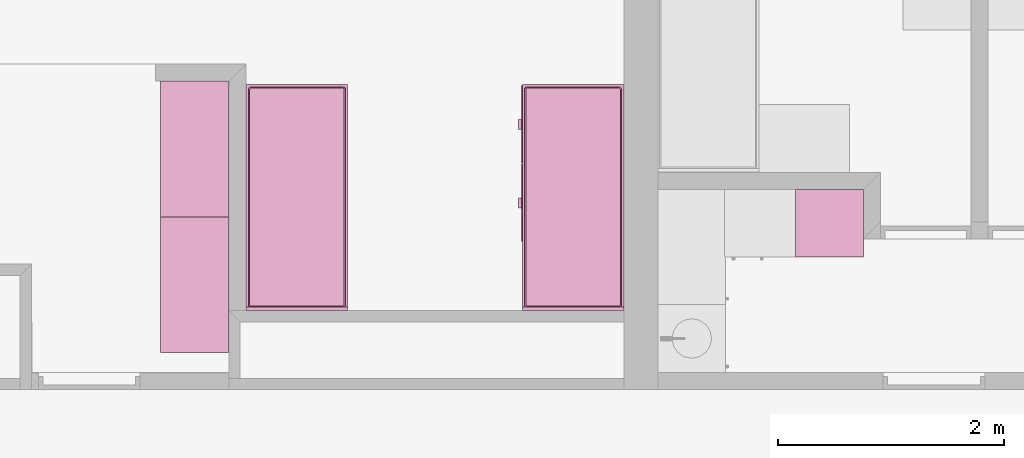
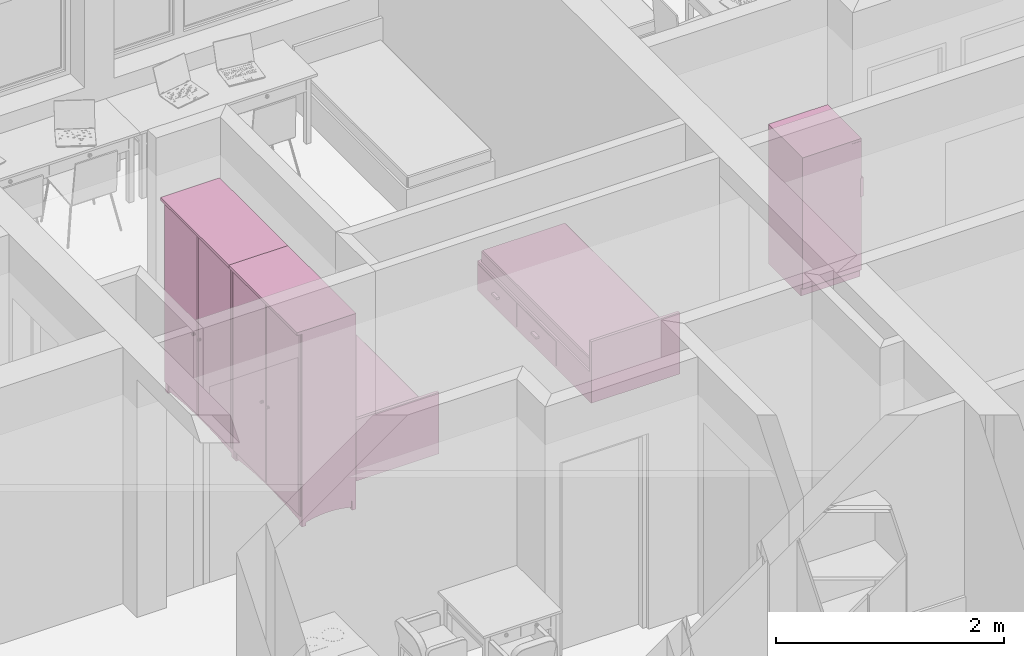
# One storey, part 89 of 172: 5 furnishings.
"""IFC2X3 building model written with IfcOpenShell, lengths in millimetres."""

from ifc_helpers import new_model, entity, si_unit, converted_unit, money_unit, direction, frame, origin_with_axes, place, context, subcontext, project, spatial, open_shell, faceted_brep, surface_model, source, transform, mapped, material, material_list, type_object, element, save


model = new_model("IFC2X3")

# Units and contexts
model_context = context("Model", 3, precision=1e-05, world=origin_with_axes(), true_north=direction((0.0, 1.0)))
body_context = subcontext(model_context, "Body", "Model", "MODEL_VIEW")
ifc_project = project(units=[si_unit("LENGTHUNIT", "METRE", prefix="MILLI"), si_unit("AREAUNIT", "SQUARE_METRE"), si_unit("VOLUMEUNIT", "CUBIC_METRE"), converted_unit("PLANEANGLEUNIT", "DEGREE", entity("IfcPlaneAngleMeasure", 0.0174532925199), si_unit("PLANEANGLEUNIT", "RADIAN"), dimensions=[0, 0, 0, 0, 0, 0, 0]), si_unit("SOLIDANGLEUNIT", "STERADIAN"), money_unit("USD"), converted_unit("TIMEUNIT", "Year", entity("IfcTimeMeasure", 31556926.0), si_unit("TIMEUNIT", "SECOND"), dimensions=[0, 0, 0, 0, 0, 0, 0]), si_unit("MASSUNIT", "GRAM"), si_unit("THERMODYNAMICTEMPERATUREUNIT", "DEGREE_CELSIUS"), si_unit("LUMINOUSINTENSITYUNIT", "LUMEN")], contexts=[model_context])

# Site, building, storey
site_placement = place(None, origin_with_axes())
site = spatial("IfcSite", under=ifc_project, at=site_placement, Name="Site", CompositionType="ELEMENT")
building_placement = place(site_placement, origin_with_axes())
building = spatial("IfcBuilding", under=site, at=building_placement, Name="Building", CompositionType="ELEMENT")
storey_placement = place(building_placement, frame((0.0, 0.0, 3200.0), z_axis=(0.0, 0.0, 1.0), x_axis=(1.0, 0.0, 0.0)))
storey = spatial("IfcBuildingStorey", under=building, at=storey_placement, Name="3KORRUS", CompositionType="ELEMENT", Elevation=3200.0)

# Furnishings
ifc_material = material(Name="Background")
ifc_material_list = material_list([ifc_material])
furnishing_element_type_1 = type_object("IfcFurnishingElementType", Name="Bed 19")
shared_shape_1 = source(origin_with_axes(), body_context, "Body", "Brep", [
    faceted_brep([(900.0, 1970.0, 0.0), (0.0, 1970.0, 0.0), (0.0, 2000.0, 0.0), (900.0, 2000.0, 0.0), (900.0, 1970.0, 660.0), (0.0, 1970.0, 660.0), (0.0, 2000.0, 660.0), (900.0, 2000.0, 660.0)], [[[0, 1, 2, 3]], [[1, 0, 4, 5]], [[2, 1, 5, 6]], [[3, 2, 6, 7]], [[0, 3, 7, 4]], [[5, 4, 7, 6]]]),
    faceted_brep([(900.0, 0.0, 0.0), (0.0, 0.0, 0.0), (0.0, 1970.0, 0.0), (900.0, 1970.0, 0.0), (900.0, 0.0, 320.0), (0.0, 0.0, 320.0), (0.0, 1970.0, 320.0), (900.0, 1970.0, 320.0)], [[[0, 1, 2, 3]], [[1, 0, 4, 5]], [[2, 1, 5, 6]], [[3, 2, 6, 7]], [[0, 3, 7, 4]], [[5, 4, 7, 6]]]),
    faceted_brep([(905.0, 10.0, 30.0), (900.0, 10.0, 30.0), (900.0, 695.0, 30.0), (905.0, 695.0, 30.0), (905.0, 10.0, 290.0), (900.0, 10.0, 290.0), (900.0, 695.0, 290.0), (905.0, 695.0, 290.0)], [[[0, 1, 2, 3]], [[1, 0, 4, 5]], [[2, 1, 5, 6]], [[3, 2, 6, 7]], [[0, 3, 7, 4]], [[5, 4, 7, 6]]]),
    faceted_brep([(935.0, 307.5, 150.0), (905.0, 307.5, 150.0), (905.0, 397.5, 150.0), (935.0, 397.5, 150.0), (935.0, 307.5, 170.0), (905.0, 307.5, 170.0), (905.0, 397.5, 170.0), (935.0, 397.5, 170.0)], [[[0, 1, 2, 3]], [[1, 0, 4, 5]], [[2, 1, 5, 6]], [[3, 2, 6, 7]], [[0, 3, 7, 4]], [[5, 4, 7, 6]]]),
    faceted_brep([(905.0, 705.0, 30.0), (900.0, 705.0, 30.0), (900.0, 1390.0, 30.0), (905.0, 1390.0, 30.0), (905.0, 705.0, 290.0), (900.0, 705.0, 290.0), (900.0, 1390.0, 290.0), (905.0, 1390.0, 290.0)], [[[0, 1, 2, 3]], [[1, 0, 4, 5]], [[2, 1, 5, 6]], [[3, 2, 6, 7]], [[0, 3, 7, 4]], [[5, 4, 7, 6]]]),
    faceted_brep([(935.0, 1002.5, 150.0), (905.0, 1002.5, 150.0), (905.0, 1092.5, 150.0), (935.0, 1092.5, 150.0), (935.0, 1002.5, 170.0), (905.0, 1002.5, 170.0), (905.0, 1092.5, 170.0), (935.0, 1092.5, 170.0)], [[[0, 1, 2, 3]], [[1, 0, 4, 5]], [[2, 1, 5, 6]], [[3, 2, 6, 7]], [[0, 3, 7, 4]], [[5, 4, 7, 6]]]),
    faceted_brep([(20.0, 40.0, 350.0), (20.0, 1950.0, 350.0), (21.522, 1957.654, 350.0), (25.858, 1964.142, 350.0), (32.346, 1968.478, 350.0), (40.0, 1970.0, 350.0), (860.0, 1970.0, 350.0), (867.654, 1968.478, 350.0), (874.142, 1964.142, 350.0), (878.478, 1957.654, 350.0), (880.0, 1950.0, 350.0), (880.0, 40.0, 350.0), (878.478, 32.346, 350.0), (874.142, 25.858, 350.0), (867.654, 21.522, 350.0), (860.0, 20.0, 350.0), (40.0, 20.0, 350.0), (32.346, 21.522, 350.0), (25.858, 25.858, 350.0), (21.522, 32.346, 350.0), (20.0, 40.0, 420.0), (20.0, 1950.0, 420.0), (21.522, 1957.654, 420.0), (25.858, 1964.142, 420.0), (32.346, 1968.478, 420.0), (40.0, 1970.0, 420.0), (860.0, 1970.0, 420.0), (867.654, 1968.478, 420.0), (874.142, 1964.142, 420.0), (878.478, 1957.654, 420.0), (880.0, 1950.0, 420.0), (880.0, 40.0, 420.0), (878.478, 32.346, 420.0), (874.142, 25.858, 420.0), (867.654, 21.522, 420.0), (860.0, 20.0, 420.0), (40.0, 20.0, 420.0), (32.346, 21.522, 420.0), (25.858, 25.858, 420.0), (21.522, 32.346, 420.0), (21.522, 40.15, 427.654), (21.522, 1949.85, 427.654), (22.956, 1957.06, 427.654), (26.955, 1963.045, 427.654), (32.94, 1967.044, 427.654), (40.15, 1968.478, 427.654), (859.85, 1968.478, 427.654), (867.06, 1967.044, 427.654), (873.045, 1963.045, 427.654), (877.044, 1957.06, 427.654), (878.478, 1949.85, 427.654), (878.478, 40.15, 427.654), (877.044, 32.94, 427.654), (873.045, 26.955, 427.654), (867.06, 22.956, 427.654), (859.85, 21.522, 427.654), (40.15, 21.522, 427.654), (32.94, 22.956, 427.654), (26.955, 26.955, 427.654), (22.956, 32.94, 427.654), (32.346, 41.216, 438.478), (32.346, 1948.784, 438.478), (33.152, 1952.836, 438.478), (34.759, 1955.241, 438.478), (37.164, 1956.848, 438.478), (41.216, 1957.654, 438.478), (858.784, 1957.654, 438.478), (862.836, 1956.848, 438.478), (865.241, 1955.241, 438.478), (866.848, 1952.836, 438.478), (867.654, 1948.784, 438.478), (867.654, 41.216, 438.478), (866.848, 37.164, 438.478), (865.241, 34.759, 438.478), (862.836, 33.152, 438.478), (858.784, 32.346, 438.478), (41.216, 32.346, 438.478), (37.164, 33.152, 438.478), (34.759, 34.759, 438.478), (33.152, 37.164, 438.478), (40.0, 41.97, 440.0), (40.0, 1948.03, 440.0), (40.327, 1949.673, 440.0), (40.0, 1950.0, 439.924), (41.97, 1950.0, 440.0), (858.03, 1950.0, 440.0), (859.673, 1949.673, 440.0), (860.0, 1950.0, 439.924), (860.0, 1948.03, 440.0), (860.0, 41.97, 440.0), (859.673, 40.327, 440.0), (860.0, 40.0, 439.924), (858.03, 40.0, 440.0), (41.97, 40.0, 440.0), (40.327, 40.327, 440.0), (40.0, 40.0, 439.924)], [[[0, 1, 2, 3, 4, 5, 6, 7, 8, 9, 10, 11, 12, 13, 14, 15, 16, 17, 18, 19]], [[1, 0, 20, 21]], [[2, 1, 21, 22]], [[3, 2, 22, 23]], [[4, 3, 23, 24]], [[5, 4, 24, 25]], [[6, 5, 25, 26]], [[7, 6, 26, 27]], [[8, 7, 27, 28]], [[9, 8, 28, 29]], [[10, 9, 29, 30]], [[11, 10, 30, 31]], [[12, 11, 31, 32]], [[13, 12, 32, 33]], [[14, 13, 33, 34]], [[15, 14, 34, 35]], [[16, 15, 35, 36]], [[17, 16, 36, 37]], [[18, 17, 37, 38]], [[19, 18, 38, 39]], [[0, 19, 39, 20]], [[21, 20, 40, 41]], [[22, 21, 41, 42]], [[23, 22, 42, 43]], [[24, 23, 43, 44]], [[25, 24, 44, 45]], [[26, 25, 45, 46]], [[27, 26, 46, 47]], [[28, 27, 47, 48]], [[29, 28, 48, 49]], [[30, 29, 49, 50]], [[31, 30, 50, 51]], [[32, 31, 51, 52]], [[33, 32, 52, 53]], [[34, 33, 53, 54]], [[35, 34, 54, 55]], [[36, 35, 55, 56]], [[37, 36, 56, 57]], [[38, 37, 57, 58]], [[39, 38, 58, 59]], [[20, 39, 59, 40]], [[41, 40, 60, 61]], [[42, 41, 61, 62]], [[43, 42, 62, 63]], [[44, 43, 63, 64]], [[45, 44, 64, 65]], [[46, 45, 65, 66]], [[47, 46, 66, 67]], [[48, 47, 67, 68]], [[49, 48, 68, 69]], [[50, 49, 69, 70]], [[51, 50, 70, 71]], [[52, 51, 71, 72]], [[53, 52, 72, 73]], [[54, 53, 73, 74]], [[55, 54, 74, 75]], [[56, 55, 75, 76]], [[57, 56, 76, 77]], [[58, 57, 77, 78]], [[59, 58, 78, 79]], [[40, 59, 79, 60]], [[61, 60, 80, 81]], [[62, 61, 81, 82, 83]], [[63, 62, 83]], [[64, 63, 83]], [[65, 64, 83, 82, 84]], [[66, 65, 84, 85]], [[67, 66, 85, 86, 87]], [[68, 67, 87]], [[69, 68, 87]], [[70, 69, 87, 86, 88]], [[71, 70, 88, 89]], [[72, 71, 89, 90, 91]], [[73, 72, 91]], [[74, 73, 91]], [[75, 74, 91, 90, 92]], [[76, 75, 92, 93]], [[77, 76, 93, 94, 95]], [[78, 77, 95]], [[79, 78, 95]], [[60, 79, 95, 94, 80]], [[81, 80, 94, 93, 92, 90, 89, 88, 86, 85, 84, 82]]]),
    faceted_brep([(20.0, 40.0, 350.0), (21.522, 32.346, 350.0), (25.858, 25.858, 350.0), (32.346, 21.522, 350.0), (40.0, 20.0, 350.0), (860.0, 20.0, 350.0), (867.654, 21.522, 350.0), (874.142, 25.858, 350.0), (878.478, 32.346, 350.0), (880.0, 40.0, 350.0), (880.0, 1950.0, 350.0), (878.478, 1957.654, 350.0), (874.142, 1964.142, 350.0), (867.654, 1968.478, 350.0), (860.0, 1970.0, 350.0), (40.0, 1970.0, 350.0), (32.346, 1968.478, 350.0), (25.858, 1964.142, 350.0), (21.522, 1957.654, 350.0), (20.0, 1950.0, 350.0), (20.0, 40.0, 320.0), (21.522, 32.346, 320.0), (25.858, 25.858, 320.0), (32.346, 21.522, 320.0), (40.0, 20.0, 320.0), (860.0, 20.0, 320.0), (867.654, 21.522, 320.0), (874.142, 25.858, 320.0), (878.478, 32.346, 320.0), (880.0, 40.0, 320.0), (880.0, 1950.0, 320.0), (878.478, 1957.654, 320.0), (874.142, 1964.142, 320.0), (867.654, 1968.478, 320.0), (860.0, 1970.0, 320.0), (40.0, 1970.0, 320.0), (32.346, 1968.478, 320.0), (25.858, 1964.142, 320.0), (21.522, 1957.654, 320.0), (20.0, 1950.0, 320.0)], [[[0, 1, 2, 3, 4, 5, 6, 7, 8, 9, 10, 11, 12, 13, 14, 15, 16, 17, 18, 19]], [[0, 20, 21, 1]], [[1, 21, 22, 2]], [[2, 22, 23, 3]], [[3, 23, 24, 4]], [[4, 24, 25, 5]], [[5, 25, 26, 6]], [[6, 26, 27, 7]], [[7, 27, 28, 8]], [[8, 28, 29, 9]], [[9, 29, 30, 10]], [[10, 30, 31, 11]], [[11, 31, 32, 12]], [[12, 32, 33, 13]], [[13, 33, 34, 14]], [[14, 34, 35, 15]], [[15, 35, 36, 16]], [[16, 36, 37, 17]], [[17, 37, 38, 18]], [[18, 38, 39, 19]], [[19, 39, 20, 0]], [[20, 39, 38, 37, 36, 35, 34, 33, 32, 31, 30, 29, 28, 27, 26, 25, 24, 23, 22, 21]]]),
])
for number, where, z_axis, x_axis, name in (
    (1, (-42290.2967033, -8439.97068321, 0.0), (0.0, 0.0, 1.0), (-1.0, 0.0, 0.0), "FU - 013"),
    (2, (-44734.1327748, -8439.97068321, 0.0), (0.0, 0.0, 1.0), (-1.0, 0.0, 0.0), "FU - 013"),
):
    element("IfcFurnishingElement", number, at=place(storey_placement, frame(where, z_axis=z_axis, x_axis=x_axis)), inside=storey, type_object=furnishing_element_type_1, material=ifc_material_list, Name=name, context=body_context, shape_type="MappedRepresentation", body=[
        mapped(shared_shape_1, transform((0.0, 0.0, 0.0))),
    ])
furnishing_element_type_2 = type_object("IfcFurnishingElementType", Name="Cupboard 19")
shared_shape_2 = source(origin_with_axes(), body_context, "Body", "Brep", [
    faceted_brep([(1180.0, 600.0, 120.0), (1180.0, 600.0, 2050.0), (1180.0, 580.0, 2050.0), (1180.0, 580.0, 120.0), (20.0, 600.0, 120.0), (20.0, 600.0, 2050.0), (20.0, 580.0, 2050.0), (20.0, 580.0, 120.0)], [[[0, 1, 2, 3]], [[4, 5, 1, 0]], [[1, 5, 6, 2]], [[3, 2, 6, 7]], [[0, 3, 7, 4]], [[7, 6, 5, 4]]]),
    faceted_brep([(0.0, 50.0, 100.0), (0.0, 600.0, 100.0), (20.0, 600.0, 100.0), (20.0, 50.0, 100.0), (0.0, 50.0, 2070.0), (0.0, 600.0, 2070.0), (20.0, 600.0, 2070.0), (20.0, 50.0, 2070.0)], [[[0, 1, 2, 3]], [[0, 4, 5, 1]], [[1, 5, 6, 2]], [[2, 6, 7, 3]], [[3, 7, 4, 0]], [[7, 6, 5, 4]]]),
    faceted_brep([(1180.0, 50.0, 100.0), (1180.0, 600.0, 100.0), (1200.0, 600.0, 100.0), (1200.0, 50.0, 100.0), (1180.0, 50.0, 2070.0), (1180.0, 600.0, 2070.0), (1200.0, 600.0, 2070.0), (1200.0, 50.0, 2070.0)], [[[0, 1, 2, 3]], [[0, 4, 5, 1]], [[1, 5, 6, 2]], [[2, 6, 7, 3]], [[3, 7, 4, 0]], [[7, 6, 5, 4]]]),
    faceted_brep([(20.0, 50.0, 100.0), (20.0, 600.0, 100.0), (1180.0, 600.0, 100.0), (1180.0, 50.0, 100.0), (20.0, 50.0, 120.0), (20.0, 600.0, 120.0), (1180.0, 600.0, 120.0), (1180.0, 50.0, 120.0)], [[[0, 1, 2, 3]], [[0, 4, 5, 1]], [[1, 5, 6, 2]], [[2, 6, 7, 3]], [[3, 7, 4, 0]], [[7, 6, 5, 4]]]),
    faceted_brep([(20.0, 50.0, 2050.0), (20.0, 600.0, 2050.0), (1180.0, 600.0, 2050.0), (1180.0, 50.0, 2050.0), (20.0, 50.0, 2070.0), (20.0, 600.0, 2070.0), (1180.0, 600.0, 2070.0), (1180.0, 50.0, 2070.0)], [[[0, 1, 2, 3]], [[0, 4, 5, 1]], [[1, 5, 6, 2]], [[2, 6, 7, 3]], [[3, 7, 4, 0]], [[7, 6, 5, 4]]]),
    faceted_brep([(0.0, 600.0, 2070.0), (0.0, 0.0, 2070.0), (0.0, 0.0, 2100.0), (0.0, 600.0, 2100.0), (1200.0, 600.0, 2070.0), (1200.0, 0.0, 2070.0), (1200.0, 0.0, 2100.0), (1200.0, 600.0, 2100.0)], [[[0, 1, 2, 3]], [[0, 4, 5, 1]], [[1, 5, 6, 2]], [[3, 2, 6, 7]], [[4, 0, 3, 7]], [[5, 4, 7, 6]]]),
    faceted_brep([(1160.0, 590.0, 25.0), (1160.0, 570.0, 25.0), (880.627, 570.0, 53.115), (880.627, 590.0, 53.115), (1160.0, 590.0, 100.0), (1160.0, 570.0, 100.0), (40.0, 570.0, 100.0), (40.0, 570.0, 25.0), (319.373, 570.0, 53.115), (600.0, 570.0, 62.5), (600.0, 590.0, 62.5), (319.373, 590.0, 53.115), (40.0, 590.0, 25.0), (40.0, 590.0, 100.0)], [[[0, 1, 2, 3]], [[4, 5, 1, 0]], [[1, 5, 6, 7, 8, 9, 2]], [[3, 2, 9, 10]], [[0, 3, 10, 11, 12, 13, 4]], [[13, 6, 5, 4]], [[12, 7, 6, 13]], [[11, 8, 7, 12]], [[10, 9, 8, 11]]]),
    faceted_brep([(1160.0, 80.0, 25.0), (1160.0, 60.0, 25.0), (880.627, 60.0, 53.115), (880.627, 80.0, 53.115), (1160.0, 80.0, 100.0), (1160.0, 60.0, 100.0), (40.0, 60.0, 100.0), (40.0, 60.0, 25.0), (319.373, 60.0, 53.115), (600.0, 60.0, 62.5), (600.0, 80.0, 62.5), (319.373, 80.0, 53.115), (40.0, 80.0, 25.0), (40.0, 80.0, 100.0)], [[[0, 1, 2, 3]], [[4, 5, 1, 0]], [[1, 5, 6, 7, 8, 9, 2]], [[3, 2, 9, 10]], [[0, 3, 10, 11, 12, 13, 4]], [[13, 6, 5, 4]], [[12, 7, 6, 13]], [[11, 8, 7, 12]], [[10, 9, 8, 11]]]),
    faceted_brep([(1190.0, 90.0, 25.0), (1170.0, 90.0, 25.0), (1170.0, 141.266, 38.072), (1190.0, 141.266, 38.072), (1190.0, 90.0, 100.0), (1170.0, 90.0, 100.0), (1170.0, 560.0, 100.0), (1170.0, 560.0, 25.0), (1170.0, 508.734, 38.072), (1170.0, 456.752, 47.92), (1170.0, 404.257, 54.508), (1170.0, 351.453, 57.808), (1170.0, 298.547, 57.808), (1170.0, 245.743, 54.508), (1170.0, 193.248, 47.92), (1190.0, 193.248, 47.92), (1190.0, 245.743, 54.508), (1190.0, 298.547, 57.808), (1190.0, 351.453, 57.808), (1190.0, 404.257, 54.508), (1190.0, 456.752, 47.92), (1190.0, 508.734, 38.072), (1190.0, 560.0, 25.0), (1190.0, 560.0, 100.0)], [[[0, 1, 2, 3]], [[4, 5, 1, 0]], [[1, 5, 6, 7, 8, 9, 10, 11, 12, 13, 14, 2]], [[3, 2, 14, 15]], [[0, 3, 15, 16, 17, 18, 19, 20, 21, 22, 23, 4]], [[23, 6, 5, 4]], [[22, 7, 6, 23]], [[21, 8, 7, 22]], [[20, 9, 8, 21]], [[19, 10, 9, 20]], [[18, 11, 10, 19]], [[17, 12, 11, 18]], [[16, 13, 12, 17]], [[15, 14, 13, 16]]]),
    faceted_brep([(30.0, 90.0, 25.0), (10.0, 90.0, 25.0), (10.0, 141.266, 38.072), (30.0, 141.266, 38.072), (30.0, 90.0, 100.0), (10.0, 90.0, 100.0), (10.0, 560.0, 100.0), (10.0, 560.0, 25.0), (10.0, 508.734, 38.072), (10.0, 456.752, 47.92), (10.0, 404.257, 54.508), (10.0, 351.453, 57.808), (10.0, 298.547, 57.808), (10.0, 245.743, 54.508), (10.0, 193.248, 47.92), (30.0, 193.248, 47.92), (30.0, 245.743, 54.508), (30.0, 298.547, 57.808), (30.0, 351.453, 57.808), (30.0, 404.257, 54.508), (30.0, 456.752, 47.92), (30.0, 508.734, 38.072), (30.0, 560.0, 25.0), (30.0, 560.0, 100.0)], [[[0, 1, 2, 3]], [[4, 5, 1, 0]], [[1, 5, 6, 7, 8, 9, 10, 11, 12, 13, 14, 2]], [[3, 2, 14, 15]], [[0, 3, 15, 16, 17, 18, 19, 20, 21, 22, 23, 4]], [[23, 6, 5, 4]], [[22, 7, 6, 23]], [[21, 8, 7, 22]], [[20, 9, 8, 21]], [[19, 10, 9, 20]], [[18, 11, 10, 19]], [[17, 12, 11, 18]], [[16, 13, 12, 17]], [[15, 14, 13, 16]]]),
    faceted_brep([(1160.0, 560.0, 0.0), (1160.0, 560.0, 100.0), (1160.0, 600.0, 100.0), (1160.0, 600.0, 0.0), (1200.0, 560.0, 0.0), (1200.0, 560.0, 100.0), (1200.0, 600.0, 100.0), (1200.0, 600.0, 0.0)], [[[0, 1, 2, 3]], [[4, 5, 1, 0]], [[1, 5, 6, 2]], [[3, 2, 6, 7]], [[0, 3, 7, 4]], [[7, 6, 5, 4]]]),
    faceted_brep([(0.0, 560.0, 0.0), (0.0, 560.0, 100.0), (0.0, 600.0, 100.0), (0.0, 600.0, 0.0), (40.0, 560.0, 0.0), (40.0, 560.0, 100.0), (40.0, 600.0, 100.0), (40.0, 600.0, 0.0)], [[[0, 1, 2, 3]], [[4, 5, 1, 0]], [[1, 5, 6, 2]], [[3, 2, 6, 7]], [[0, 3, 7, 4]], [[7, 6, 5, 4]]]),
    faceted_brep([(1160.0, 50.0, 0.0), (1160.0, 50.0, 100.0), (1160.0, 90.0, 100.0), (1160.0, 90.0, 0.0), (1200.0, 50.0, 0.0), (1200.0, 50.0, 100.0), (1200.0, 90.0, 100.0), (1200.0, 90.0, 0.0)], [[[0, 1, 2, 3]], [[4, 5, 1, 0]], [[1, 5, 6, 2]], [[3, 2, 6, 7]], [[0, 3, 7, 4]], [[7, 6, 5, 4]]]),
    faceted_brep([(0.0, 50.0, 0.0), (0.0, 50.0, 100.0), (0.0, 90.0, 100.0), (0.0, 90.0, 0.0), (40.0, 50.0, 0.0), (40.0, 50.0, 100.0), (40.0, 90.0, 100.0), (40.0, 90.0, 0.0)], [[[0, 1, 2, 3]], [[4, 5, 1, 0]], [[1, 5, 6, 2]], [[3, 2, 6, 7]], [[0, 3, 7, 4]], [[7, 6, 5, 4]]]),
    faceted_brep([(1180.0, 580.0, 587.5), (1180.0, 580.0, 607.5), (1180.0, 50.0, 607.5), (1180.0, 50.0, 587.5), (20.0, 580.0, 587.5), (20.0, 580.0, 607.5), (20.0, 50.0, 607.5), (20.0, 50.0, 587.5)], [[[0, 1, 2, 3]], [[4, 5, 1, 0]], [[1, 5, 6, 2]], [[3, 2, 6, 7]], [[0, 3, 7, 4]], [[7, 6, 5, 4]]]),
    faceted_brep([(1180.0, 580.0, 1075.0), (1180.0, 580.0, 1095.0), (1180.0, 50.0, 1095.0), (1180.0, 50.0, 1075.0), (20.0, 580.0, 1075.0), (20.0, 580.0, 1095.0), (20.0, 50.0, 1095.0), (20.0, 50.0, 1075.0)], [[[0, 1, 2, 3]], [[4, 5, 1, 0]], [[1, 5, 6, 2]], [[3, 2, 6, 7]], [[0, 3, 7, 4]], [[7, 6, 5, 4]]]),
    faceted_brep([(1180.0, 580.0, 1562.5), (1180.0, 580.0, 1582.5), (1180.0, 50.0, 1582.5), (1180.0, 50.0, 1562.5), (20.0, 580.0, 1562.5), (20.0, 580.0, 1582.5), (20.0, 50.0, 1582.5), (20.0, 50.0, 1562.5)], [[[0, 1, 2, 3]], [[4, 5, 1, 0]], [[1, 5, 6, 2]], [[3, 2, 6, 7]], [[0, 3, 7, 4]], [[7, 6, 5, 4]]]),
    faceted_brep([(1189.5, 50.0, 110.5), (600.5, 50.0, 110.5), (600.5, 50.0, 2059.5), (1189.5, 50.0, 2059.5), (1189.5, 40.0, 110.5), (600.5, 40.0, 110.5), (600.5, 40.0, 2059.5), (1189.5, 40.0, 2059.5), (1179.5, 30.0, 120.5), (610.5, 30.0, 120.5), (610.5, 30.0, 2049.5), (1179.5, 30.0, 2049.5)], [[[0, 1, 2, 3]], [[0, 4, 5, 1]], [[1, 5, 6, 2]], [[2, 6, 7, 3]], [[3, 7, 4, 0]], [[4, 8, 9, 5]], [[5, 9, 10, 6]], [[6, 10, 11, 7]], [[7, 11, 8, 4]], [[10, 9, 8, 11]]]),
    faceted_brep([(599.5, 50.0, 110.5), (10.5, 50.0, 110.5), (10.5, 50.0, 2059.5), (599.5, 50.0, 2059.5), (599.5, 40.0, 110.5), (10.5, 40.0, 110.5), (10.5, 40.0, 2059.5), (599.5, 40.0, 2059.5), (589.5, 30.0, 120.5), (20.5, 30.0, 120.5), (20.5, 30.0, 2049.5), (589.5, 30.0, 2049.5)], [[[0, 1, 2, 3]], [[0, 4, 5, 1]], [[1, 5, 6, 2]], [[2, 6, 7, 3]], [[3, 7, 4, 0]], [[4, 8, 9, 5]], [[5, 9, 10, 6]], [[6, 10, 11, 7]], [[7, 11, 8, 4]], [[10, 9, 8, 11]]]),
    faceted_brep([(539.608, 30.0, 954.0), (538.0, 30.0, 960.0), (539.608, 30.0, 966.0), (544.0, 30.0, 970.392), (550.0, 30.0, 972.0), (556.0, 30.0, 970.392), (560.392, 30.0, 966.0), (562.0, 30.0, 960.0), (560.392, 30.0, 954.0), (556.0, 30.0, 949.608), (550.0, 30.0, 948.0), (544.0, 30.0, 949.608), (539.608, 5.0, 954.0), (538.0, 5.0, 960.0), (539.608, 5.0, 966.0), (544.0, 5.0, 970.392), (550.0, 5.0, 972.0), (556.0, 5.0, 970.392), (560.392, 5.0, 966.0), (562.0, 5.0, 960.0), (560.392, 5.0, 954.0), (556.0, 5.0, 949.608), (550.0, 5.0, 948.0), (544.0, 5.0, 949.608)], [[[0, 1, 2, 3, 4, 5, 6, 7, 8, 9, 10, 11]], [[0, 12, 13, 1]], [[1, 13, 14, 2]], [[2, 14, 15, 3]], [[3, 15, 16, 4]], [[4, 16, 17, 5]], [[5, 17, 18, 6]], [[6, 18, 19, 7]], [[7, 19, 20, 8]], [[8, 20, 21, 9]], [[9, 21, 22, 10]], [[10, 22, 23, 11]], [[11, 23, 12, 0]], [[12, 23, 22, 21, 20, 19, 18, 17, 16, 15, 14, 13]]]),
    faceted_brep([(660.392, 30.0, 954.0), (656.0, 30.0, 949.608), (650.0, 30.0, 948.0), (644.0, 30.0, 949.608), (639.608, 30.0, 954.0), (638.0, 30.0, 960.0), (639.608, 30.0, 966.0), (644.0, 30.0, 970.392), (650.0, 30.0, 972.0), (656.0, 30.0, 970.392), (660.392, 30.0, 966.0), (662.0, 30.0, 960.0), (660.392, 5.0, 954.0), (656.0, 5.0, 949.608), (650.0, 5.0, 948.0), (644.0, 5.0, 949.608), (639.608, 5.0, 954.0), (638.0, 5.0, 960.0), (639.608, 5.0, 966.0), (644.0, 5.0, 970.392), (650.0, 5.0, 972.0), (656.0, 5.0, 970.392), (660.392, 5.0, 966.0), (662.0, 5.0, 960.0)], [[[0, 1, 2, 3, 4, 5, 6, 7, 8, 9, 10, 11]], [[1, 0, 12, 13]], [[2, 1, 13, 14]], [[3, 2, 14, 15]], [[4, 3, 15, 16]], [[5, 4, 16, 17]], [[6, 5, 17, 18]], [[7, 6, 18, 19]], [[8, 7, 19, 20]], [[9, 8, 20, 21]], [[10, 9, 21, 22]], [[11, 10, 22, 23]], [[0, 11, 23, 12]], [[12, 23, 22, 21, 20, 19, 18, 17, 16, 15, 14, 13]]]),
])
for number, where, z_axis, x_axis, name in (
    (3, (-46389.9526939, -8409.87086674, 0.0), (0.0, 0.0, 1.0), (0.0, -1.0, 0.0), "FU - 014"),
    (4, (-46389.9526939, -9609.87086674, 0.0), (0.0, 0.0, 1.0), (0.0, -1.0, 0.0), "FU - 014"),
):
    element("IfcFurnishingElement", number, at=place(storey_placement, frame(where, z_axis=z_axis, x_axis=x_axis)), inside=storey, type_object=furnishing_element_type_2, material=ifc_material_list, Name=name, context=body_context, shape_type="MappedRepresentation", body=[
        mapped(shared_shape_2, transform((0.0, 0.0, 0.0))),
    ])
furnishing_element_type_3 = type_object("IfcFurnishingElementType", Name="Refrigerator 19")
shared_shape_3 = source(origin_with_axes(), body_context, "Body", "SurfaceModel", [
    faceted_brep([(0.0, 0.0, 1475.0), (600.0, 0.0, 1475.0), (600.0, 0.0, 1500.0), (0.0, 0.0, 1500.0), (0.0, 600.0, 1475.0), (600.0, 600.0, 1475.0), (600.0, 600.0, 1500.0), (0.0, 600.0, 1500.0)], [[[0, 1, 2, 3]], [[0, 4, 5, 1]], [[1, 5, 6, 2]], [[3, 2, 6, 7]], [[4, 0, 3, 7]], [[5, 4, 7, 6]]]),
    faceted_brep([(0.0, 65.0, 0.0), (600.0, 65.0, 0.0), (600.0, 65.0, 1475.0), (0.0, 65.0, 1475.0), (0.0, 600.0, 0.0), (600.0, 600.0, 0.0), (600.0, 600.0, 1475.0), (0.0, 600.0, 1475.0)], [[[0, 1, 2, 3]], [[0, 4, 5, 1]], [[1, 5, 6, 2]], [[3, 2, 6, 7]], [[4, 0, 3, 7]], [[5, 4, 7, 6]]]),
    faceted_brep([(0.0, 30.0, 0.0), (600.0, 30.0, 0.0), (600.0, 30.0, 90.0), (0.0, 30.0, 90.0), (0.0, 60.0, 0.0), (600.0, 60.0, 0.0), (600.0, 60.0, 90.0), (0.0, 60.0, 90.0)], [[[0, 1, 2, 3]], [[0, 4, 5, 1]], [[1, 5, 6, 2]], [[3, 2, 6, 7]], [[4, 0, 3, 7]], [[5, 4, 7, 6]]]),
    faceted_brep([(0.0, 60.0, 90.0), (600.0, 60.0, 90.0), (600.0, 0.0, 90.0), (0.0, 0.0, 90.0), (0.0, 60.0, 1474.5), (600.0, 60.0, 1474.5), (600.0, 0.0, 1474.5), (0.0, 0.0, 1474.5)], [[[0, 1, 2, 3]], [[0, 4, 5, 1]], [[1, 5, 6, 2]], [[3, 2, 6, 7]], [[4, 0, 3, 7]], [[5, 4, 7, 6]]]),
    surface_model("IfcShellBasedSurfaceModel", [(600.0, -30.0, 900.0), (600.0, -30.0, 1100.0), (600.0, 0.0, 1100.0), (600.0, 0.0, 900.0)], [open_shell([[[0, 1, 2, 3]]])]),
    surface_model("IfcShellBasedSurfaceModel", [(600.0, -30.0, 900.0), (600.0, -30.0, 1100.0), (570.0, -30.0, 1100.0), (570.0, -30.0, 900.0)], [open_shell([[[0, 1, 2, 3]]])]),
])
furnishing_placement = place(storey_placement, frame((-40772.0319183, -9967.37850445, 0.0), z_axis=(0.0, 0.0, 1.0), x_axis=(1.0, 0.0, 0.0)))
element("IfcFurnishingElement", 5, at=furnishing_placement, inside=storey, type_object=furnishing_element_type_3, material=ifc_material_list, Name="FU - 007", context=body_context, shape_type="MappedRepresentation", body=[
    mapped(shared_shape_3, transform((0.0, 0.0, 0.0))),
])

save(model, "model.ifc")
